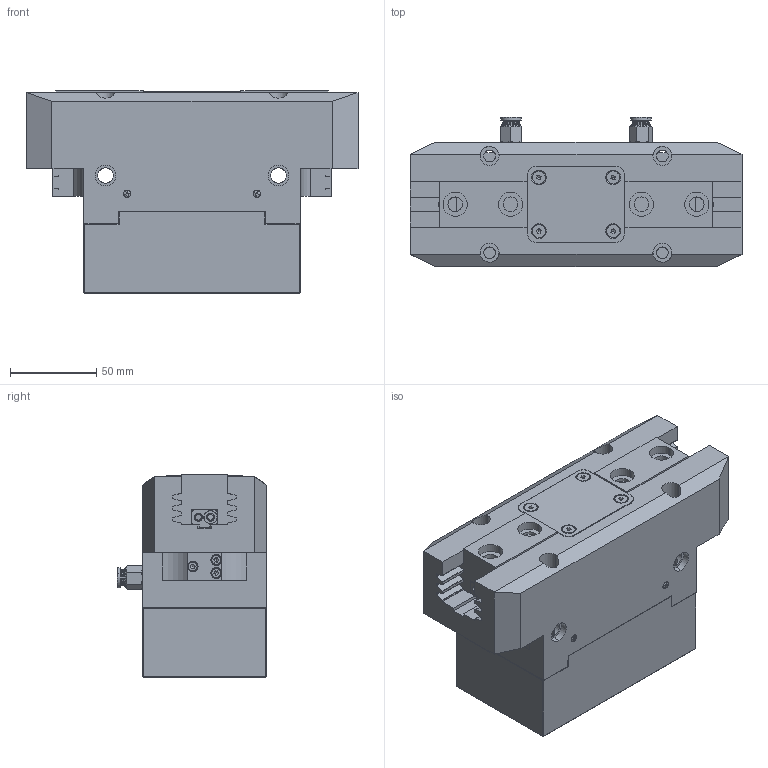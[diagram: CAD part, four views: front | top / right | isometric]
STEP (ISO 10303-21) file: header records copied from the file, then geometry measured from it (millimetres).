
FILE_DESCRIPTION (( 'STEP AP214' ), '1' );
FILE_NAME ('FPT-160B-1-S蚾饜极.STEP', '2024-08-29T07:19:59', ( '' ), ( '' ), 'SwSTEP 2.0', 'SolidWorks 2018', '' );
FILE_SCHEMA (( 'AUTOMOTIVE_DESIGN' ));
Length unit declared in the file: millimetre
Products named in the file (1): FPT-160B-1-S蚾饜极
Bounding box: 192 x 86.68 x 117 mm (x, y, z)
Volume: 1162242.3 mm3; surface area: 125984 mm2
Topology: 1 solids, 24 shells, 1232 faces, 3123 edges, 1918 vertices
Faces by surface type: plane 646, cylinder 371, cone 179, torus 26, sphere 10
Entity records: 41313 total; most frequent: CARTESIAN_POINT 7746, DIRECTION 6311, ORIENTED_EDGE 6158, EDGE_CURVE 3079, AXIS2_PLACEMENT_3D 2231, VERTEX_POINT 1918, VECTOR 1849, LINE 1849
